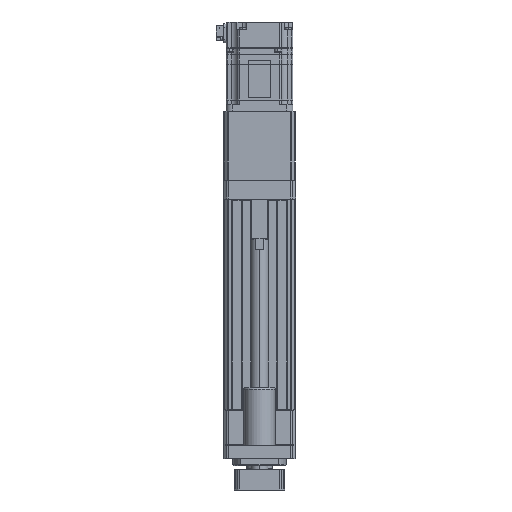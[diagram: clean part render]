
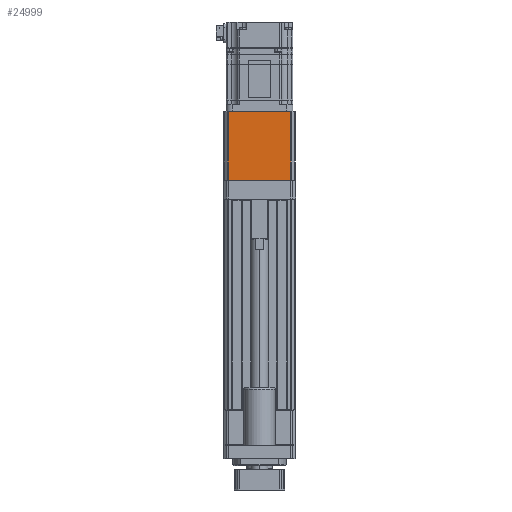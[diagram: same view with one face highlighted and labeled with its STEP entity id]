
A CAD part, front view. The second image highlights one B-rep face of the part: STEP entity #24999.
In plain terms, the highlighted planar face has unit normal (0, -1, 0).
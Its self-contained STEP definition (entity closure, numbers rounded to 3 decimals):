
#87 = CARTESIAN_POINT ( 'NONE',  ( -28.079, -32., 206.5 ) ) ;
#1193 = LINE ( 'NONE', #25957, #10506 ) ;
#3318 = CARTESIAN_POINT ( 'NONE',  ( 28.079, -32., 268.5 ) ) ;
#3498 = FACE_OUTER_BOUND ( 'NONE', #42469, .T. ) ;
#4082 = LINE ( 'NONE', #8311, #37946 ) ;
#4646 = DIRECTION ( 'NONE',  ( 0., 0., -1. ) ) ;
#5091 = DIRECTION ( 'NONE',  ( 1., 0., 0. ) ) ;
#5861 = CARTESIAN_POINT ( 'NONE',  ( -28.072, -32., 206.5 ) ) ;
#6763 = EDGE_CURVE ( 'NONE', #25865, #12779, #1193, .T. ) ;
#6933 = LINE ( 'NONE', #41671, #43024 ) ;
#7258 = EDGE_CURVE ( 'NONE', #16675, #27623, #27438, .T. ) ;
#7819 = ORIENTED_EDGE ( 'NONE', *, *, #6763, .T. ) ;
#8036 = AXIS2_PLACEMENT_3D ( 'NONE', #38934, #17974, #42451 ) ;
#8311 = CARTESIAN_POINT ( 'NONE',  ( -28.079, -32., 268. ) ) ;
#8608 = EDGE_CURVE ( 'NONE', #16571, #16486, #22917, .T. ) ;
#8644 = ORIENTED_EDGE ( 'NONE', *, *, #11613, .T. ) ;
#10506 = VECTOR ( 'NONE', #15526, 1000. ) ;
#11613 = EDGE_CURVE ( 'NONE', #16571, #16675, #4082, .T. ) ;
#12779 = VERTEX_POINT ( 'NONE', #40693 ) ;
#14496 = PLANE ( 'NONE',  #8036 ) ;
#15307 = DIRECTION ( 'NONE',  ( -1., 0., 0. ) ) ;
#15496 = VECTOR ( 'NONE', #5091, 1000. ) ;
#15526 = DIRECTION ( 'NONE',  ( 1., 0., 0. ) ) ;
#16486 = VERTEX_POINT ( 'NONE', #26548 ) ;
#16571 = VERTEX_POINT ( 'NONE', #37429 ) ;
#16675 = VERTEX_POINT ( 'NONE', #44946 ) ;
#17974 = DIRECTION ( 'NONE',  ( 0., 1., 0. ) ) ;
#22917 = LINE ( 'NONE', #3318, #32228 ) ;
#23347 = ORIENTED_EDGE ( 'NONE', *, *, #8608, .F. ) ;
#24198 = ORIENTED_EDGE ( 'NONE', *, *, #7258, .T. ) ;
#24245 = DIRECTION ( 'NONE',  ( 0., 0., -1. ) ) ;
#24999 = ADVANCED_FACE ( 'NONE', ( #3498 ), #14496, .F. ) ;
#25865 = VERTEX_POINT ( 'NONE', #5861 ) ;
#25957 = CARTESIAN_POINT ( 'NONE',  ( -28.072, -32., 206.5 ) ) ;
#26548 = CARTESIAN_POINT ( 'NONE',  ( 28.079, -32., 206.5 ) ) ;
#27438 = LINE ( 'NONE', #32436, #45000 ) ;
#27623 = VERTEX_POINT ( 'NONE', #87 ) ;
#29516 = CARTESIAN_POINT ( 'NONE',  ( -28.079, -32., 206.5 ) ) ;
#32228 = VECTOR ( 'NONE', #24245, 1000. ) ;
#32376 = EDGE_CURVE ( 'NONE', #27623, #25865, #6933, .T. ) ;
#32436 = CARTESIAN_POINT ( 'NONE',  ( -28.079, -32., 268.5 ) ) ;
#34551 = ORIENTED_EDGE ( 'NONE', *, *, #35047, .T. ) ;
#34690 = ORIENTED_EDGE ( 'NONE', *, *, #32376, .T. ) ;
#35047 = EDGE_CURVE ( 'NONE', #12779, #16486, #43406, .T. ) ;
#37429 = CARTESIAN_POINT ( 'NONE',  ( 28.079, -32., 268. ) ) ;
#37946 = VECTOR ( 'NONE', #15307, 1000. ) ;
#38934 = CARTESIAN_POINT ( 'NONE',  ( -28.079, -32., 268.5 ) ) ;
#40693 = CARTESIAN_POINT ( 'NONE',  ( 28.072, -32., 206.5 ) ) ;
#41671 = CARTESIAN_POINT ( 'NONE',  ( -28.079, -32., 206.5 ) ) ;
#42451 = DIRECTION ( 'NONE',  ( 0., 0., 1. ) ) ;
#42469 = EDGE_LOOP ( 'NONE', ( #23347, #8644, #24198, #34690, #7819, #34551 ) ) ;
#43024 = VECTOR ( 'NONE', #45217, 1000. ) ;
#43406 = LINE ( 'NONE', #29516, #15496 ) ;
#44946 = CARTESIAN_POINT ( 'NONE',  ( -28.079, -32., 268. ) ) ;
#45000 = VECTOR ( 'NONE', #4646, 1000. ) ;
#45217 = DIRECTION ( 'NONE',  ( 1., 0., 0. ) ) ;
